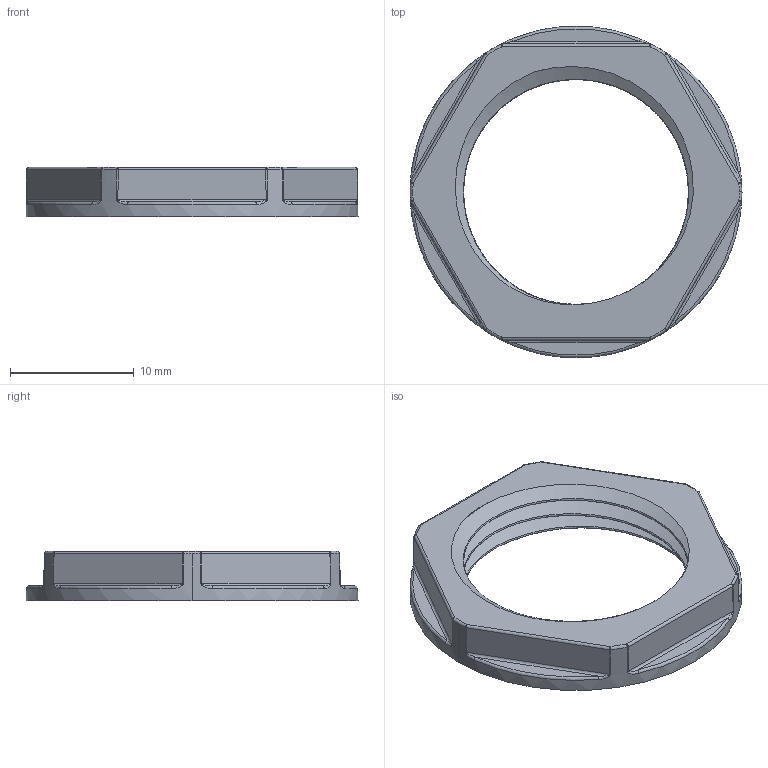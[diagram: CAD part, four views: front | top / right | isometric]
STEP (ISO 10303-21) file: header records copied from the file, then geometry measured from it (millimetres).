
FILE_DESCRIPTION (( 'STEP AP203' ), '1' );
FILE_NAME ('plc-pg-16-00.00.003 Ãàéêà ïðèæèìíàÿ (PG16-Ì20) #clamping nut (PG16-M20)#.STEP', '2021-06-02T06:54:52', ( '' ), ( '' ), 'SwSTEP 2.0', 'SolidWorks 2021', '' );
FILE_SCHEMA (( 'CONFIG_CONTROL_DESIGN' ));
Length unit declared in the file: millimetre
Products named in the file (1): plc-pg-16-00.00.003 Ãàéêà ïðèæèìíàÿ (PG16-Ì20) #clamping nut (PG16-M20)#
Bounding box: 26.87 x 26.87 x 4 mm (x, y, z)
Volume: 896.3 mm3; surface area: 1307.4 mm2
Topology: 1 solids, 1 shells, 89 faces, 197 edges, 110 vertices
Faces by surface type: bspline 29, cylinder 18, plane 14, torus 13, sphere 13, cone 2
Entity records: 5425 total; most frequent: CARTESIAN_POINT 3591, ORIENTED_EDGE 394, DIRECTION 343, EDGE_CURVE 197, AXIS2_PLACEMENT_3D 156, VERTEX_POINT 110, CIRCLE 95, EDGE_LOOP 91
